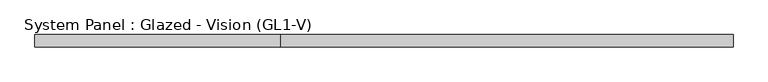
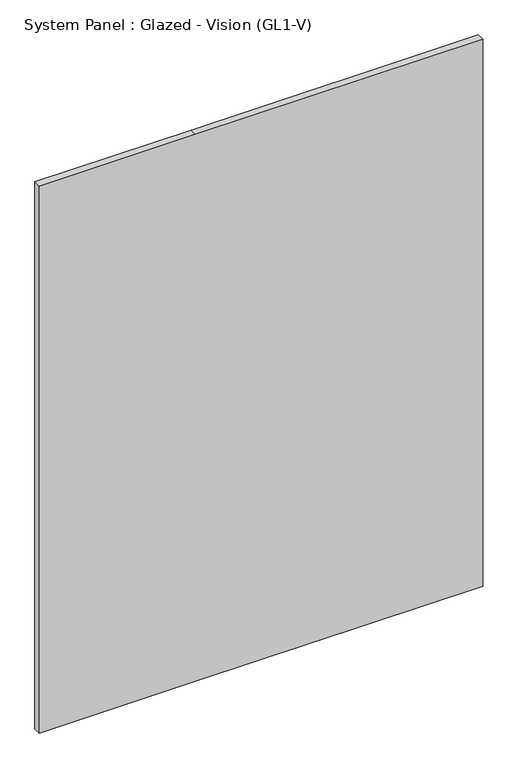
"""IFC4 building model written with IfcOpenShell, lengths in millimetres: plate geometry, System Panel : Glazed - Vision (GL1-V)."""

from ifc_helpers import new_model, si_unit, frame, origin, place, context, project, spatial, polyline, outline, extrude, source, transform, mapped, element, save


def system_panel_glazed_vision_gl1_v_86dd3961(model_context):
    return source(origin(), model_context, "Body", "SweptSolid", [
        extrude(outline(polyline([(0.0, -730.25), (0.0, -215.9), (0.0, 730.25), (1904.999999, 730.25), (1904.999999, -215.9), (1904.999999, -730.25), (0.0, -730.25)])), frame((0.0, -25.4, 0.0), z_axis=(0.0, 1.0, 0.0), x_axis=(0.0, 0.0, 1.0)), (0.0, 0.0, 1.0), 25.4),
    ])


if __name__ == "__main__":
    model = new_model("IFC4")
    model_context = context("Model", 3, world=origin())
    ifc_project = project(units=[si_unit("LENGTHUNIT", "METRE", prefix="MILLI")], contexts=[model_context])
    site = spatial("IfcSite", under=ifc_project)
    building = spatial("IfcBuilding", under=site)
    placement = place(None, origin())
    system_panel_glazed_vision_gl1_v_shape = system_panel_glazed_vision_gl1_v_86dd3961(model_context)
    element("IfcPlate", 1, ObjectType="System Panel : Glazed - Vision (GL1-V)", at=placement, inside=building, context=model_context, shape_type="MappedRepresentation", body=[
        mapped(system_panel_glazed_vision_gl1_v_shape, transform((0.0, 0.0, 0.0), x_axis=(1.0, 0.0, 0.0), y_axis=(0.0, 1.0, 0.0), z_axis=(0.0, 0.0, 1.0))),
    ])
    save(model, "model.ifc")
